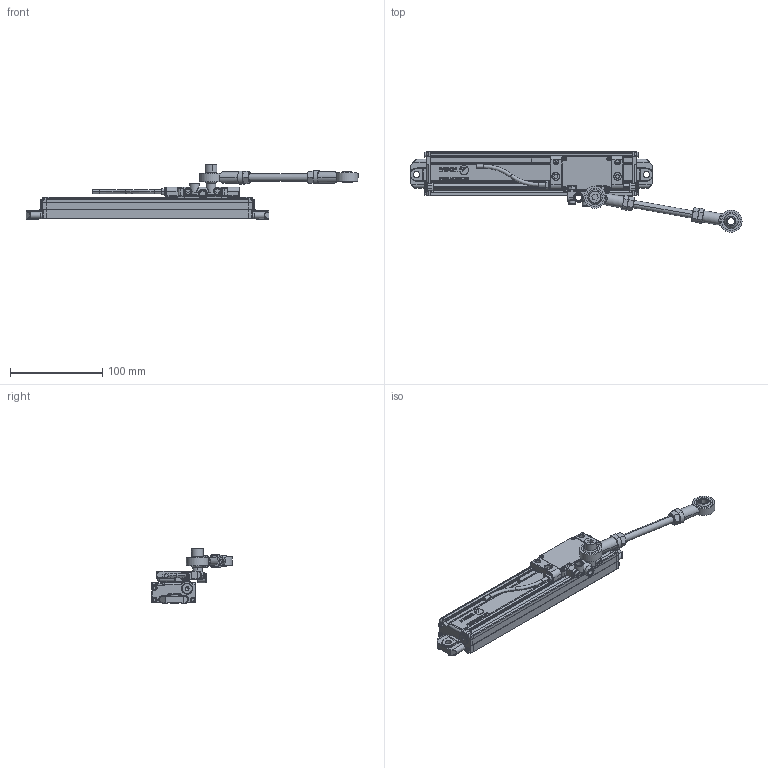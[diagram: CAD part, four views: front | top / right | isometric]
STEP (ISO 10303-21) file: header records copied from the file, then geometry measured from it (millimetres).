
FILE_DESCRIPTION(('Creo Elements/Direct Modeling STEP Export'),'2;1');
FILE_NAME('SERIE_PB-120.stp','2017-01-11T12:20:58',(''),(''),'Creo Elements/Direct Modeling STEP processor for AP214 (Solid Model)','Creo Elements/Direct Modeling 18.1H 24-Oct-2015 (C) Parametric Technology GmbH','');
FILE_SCHEMA(('AUTOMOTIVE_DESIGN { 1 0 10303 214 1 1 1 1 }'));
Length unit declared in the file: millimetre
Products named in the file (14): BLOCK; COUPLING_BAR; IO; READING_HEAD_BODY; SCALE_BLOCK_1; SCALE_BLOCK_2; SCALE_BODY_120
Assembly tree (7 placements, depth 2):
  BLOCK
    BLOCK
  COUPLING_BAR
    COUPLING_BAR
  IO
    IO
  READING_HEAD_BODY
    READING_HEAD_BODY
  SCALE_BLOCK_1
    SCALE_BLOCK_1
Bounding box: 360.72 x 87.83 x 59.41 mm (x, y, z)
Volume: 293047.6 mm3; surface area: 74177.8 mm2
Topology: 9 solids, 13 shells, 1964 faces, 5117 edges, 3181 vertices
Faces by surface type: plane 891, cylinder 673, bspline 198, torus 72, cone 70, sphere 51, extrusion 9
Entity records: 90119 total; most frequent: CARTESIAN_POINT 41027, ORIENTED_EDGE 10100, DIRECTION 8499, EDGE_CURVE 5042, VERTEX_POINT 3181, VECTOR 2927, LINE 2918, AXIS2_PLACEMENT_3D 2786
